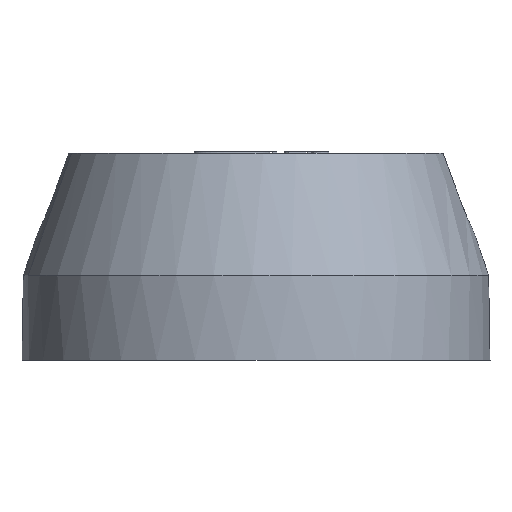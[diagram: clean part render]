
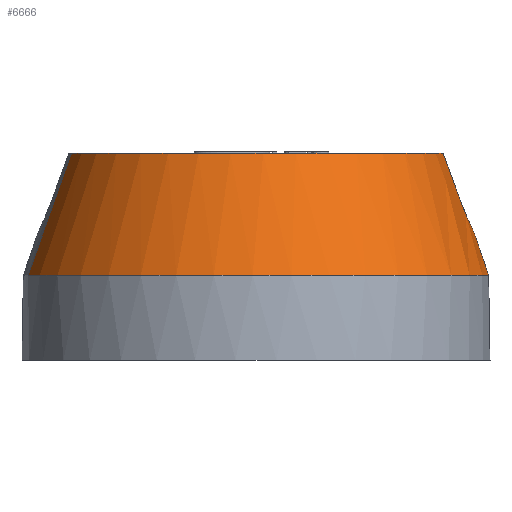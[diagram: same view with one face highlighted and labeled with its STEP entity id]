
A CAD part, left-side view. The second image highlights one B-rep face of the part: STEP entity #6666.
In plain terms, the highlighted free-form (B-spline) face has degree [1, 7] with [2, 8] control points.
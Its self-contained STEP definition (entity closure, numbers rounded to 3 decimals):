
#1211=CARTESIAN_POINT(' ',(0.,0.,25.197));
#1216=DIRECTION(' ',(0.,0.,1.));
#1221=DIRECTION(' ',(0.142,-0.99,0.));
#1226=AXIS2_PLACEMENT_3D(' ',#1211,#1216,#1221);
#1231=CIRCLE('',#1226,12.357);
#1236=CARTESIAN_POINT(' ',(1.75,-12.232,25.2));
#1237=VERTEX_POINT(' ',#1236);
#1241=CARTESIAN_POINT(' ',(2.675,-12.064,25.2));
#1242=VERTEX_POINT(' ',#1241);
#1246=EDGE_CURVE(' ',#1237,#1242,#1231,.T.);
#1426=CARTESIAN_POINT(' ',(-2.675,12.064,25.2));
#1427=VERTEX_POINT(' ',#1426);
#1441=CARTESIAN_POINT(' ',(0.,0.,25.2));
#1446=DIRECTION(' ',(0.,0.,1.));
#1451=DIRECTION(' ',(-0.216,0.976,0.));
#1456=AXIS2_PLACEMENT_3D(' ',#1441,#1446,#1451);
#1461=CIRCLE('',#1456,12.357);
#1466=CARTESIAN_POINT(' ',(-1.75,-12.232,25.2));
#1467=VERTEX_POINT(' ',#1466);
#1471=EDGE_CURVE(' ',#1427,#1467,#1461,.T.);
#6101=CARTESIAN_POINT(' ',(3.301,-14.892,17.242));
#6106=CARTESIAN_POINT(' ',(-3.382,-16.373,17.242));
#6111=CARTESIAN_POINT(' ',(-10.835,-14.353,17.242));
#6116=CARTESIAN_POINT(' ',(-16.902,-8.363,17.242));
#6121=CARTESIAN_POINT(' ',(-18.853,0.436,17.242));
#6126=CARTESIAN_POINT(' ',(-15.886,8.429,17.242));
#6131=CARTESIAN_POINT(' ',(-9.985,13.41,17.242));
#6136=CARTESIAN_POINT(' ',(-3.301,14.892,17.242));
#6141=CARTESIAN_POINT(' ',(2.675,-12.064,25.2));
#6146=CARTESIAN_POINT(' ',(-2.74,-13.264,25.2));
#6151=CARTESIAN_POINT(' ',(-8.778,-11.628,25.2));
#6156=CARTESIAN_POINT(' ',(-13.692,-6.775,25.2));
#6161=CARTESIAN_POINT(' ',(-15.273,0.353,25.2));
#6166=CARTESIAN_POINT(' ',(-12.869,6.829,25.2));
#6171=CARTESIAN_POINT(' ',(-8.089,10.864,25.2));
#6176=CARTESIAN_POINT(' ',(-2.675,12.064,25.2));
#6181=B_SPLINE_SURFACE_WITH_KNOTS(' ',1,7,((#6101,#6106,#6111,#6116,#6121,#6126,#6131,#6136),(#6141,#6146,#6151,#6156,#6161,#6166,#6171,#6176)),.UNSPECIFIED.,.F.,.F.,.U.,(2,2),(8,8),(0.,1.),(0.,1.),.UNSPECIFIED.);
#6186=CARTESIAN_POINT(' ',(2.675,-12.064,25.2));
#6191=DIRECTION(' ',(0.074,-0.334,-0.94));
#6196=VECTOR(' ',#6191,1.);
#6201=LINE('',#6186,#6196);
#6206=CARTESIAN_POINT(' ',(3.301,-14.892,17.242));
#6207=VERTEX_POINT(' ',#6206);
#6211=EDGE_CURVE(' ',#1242,#6207,#6201,.T.);
#6216=ORIENTED_EDGE(' ',*,*,#6211,.F.);
#6221=ORIENTED_EDGE(' ',*,*,#1246,.F.);
#6226=CARTESIAN_POINT(' ',(1.75,-13.426,21.95));
#6231=DIRECTION(' ',(0.,0.345,0.939));
#6236=VECTOR(' ',#6231,1.);
#6241=LINE('',#6226,#6236);
#6246=CARTESIAN_POINT(' ',(1.75,-13.426,21.95));
#6247=VERTEX_POINT(' ',#6246);
#6251=EDGE_CURVE(' ',#6247,#1237,#6241,.T.);
#6256=ORIENTED_EDGE(' ',*,*,#6251,.F.);
#6261=CARTESIAN_POINT(' ',(-1.75,-13.426,21.95));
#6266=CARTESIAN_POINT(' ',(-1.75,-13.495,21.766));
#6271=CARTESIAN_POINT(' ',(-1.722,-13.565,21.584));
#6276=CARTESIAN_POINT(' ',(-1.611,-13.706,21.241));
#6281=CARTESIAN_POINT(' ',(-1.53,-13.775,21.078));
#6286=CARTESIAN_POINT(' ',(-1.319,-13.904,20.783));
#6291=CARTESIAN_POINT(' ',(-1.189,-13.965,20.651));
#6296=CARTESIAN_POINT(' ',(-0.777,-14.103,20.348));
#6301=CARTESIAN_POINT(' ',(-0.437,-14.165,20.224));
#6306=CARTESIAN_POINT(' ',(0.078,-14.18,20.191));
#6311=CARTESIAN_POINT(' ',(0.263,-14.171,20.209));
#6316=CARTESIAN_POINT(' ',(0.612,-14.127,20.299));
#6321=CARTESIAN_POINT(' ',(0.778,-14.092,20.37));
#6326=CARTESIAN_POINT(' ',(1.077,-14.005,20.557));
#6331=CARTESIAN_POINT(' ',(1.212,-13.951,20.674));
#6336=CARTESIAN_POINT(' ',(1.592,-13.755,21.116));
#6341=CARTESIAN_POINT(' ',(1.75,-13.58,21.532));
#6346=CARTESIAN_POINT(' ',(1.75,-13.426,21.95));
#6351=B_SPLINE_CURVE_WITH_KNOTS('',3,(#6261,#6266,#6271,#6276,#6281,#6286,#6291,#6296,#6301,#6306,#6311,#6316,#6321,#6326,#6331,#6336,#6341,#6346),.UNSPECIFIED.,.F.,.U.,(4,2,2,2,2,2,2,2,4),(0.,0.1,0.2,0.3,0.473,0.573,0.673,0.773,1.),.UNSPECIFIED.);
#6356=CARTESIAN_POINT(' ',(-1.75,-13.426,21.95));
#6357=VERTEX_POINT(' ',#6356);
#6361=EDGE_CURVE(' ',#6357,#6247,#6351,.T.);
#6366=ORIENTED_EDGE(' ',*,*,#6361,.F.);
#6371=CARTESIAN_POINT(' ',(-1.75,-12.232,25.2));
#6376=DIRECTION(' ',(0.,-0.345,-0.939));
#6381=VECTOR(' ',#6376,1.);
#6386=LINE('',#6371,#6381);
#6391=EDGE_CURVE(' ',#1467,#6357,#6386,.T.);
#6396=ORIENTED_EDGE(' ',*,*,#6391,.F.);
#6401=ORIENTED_EDGE(' ',*,*,#1471,.F.);
#6406=CARTESIAN_POINT(' ',(-3.301,14.892,17.242));
#6411=DIRECTION(' ',(0.074,-0.334,0.94));
#6416=VECTOR(' ',#6411,1.);
#6421=LINE('',#6406,#6416);
#6426=CARTESIAN_POINT(' ',(-3.301,14.892,17.242));
#6427=VERTEX_POINT(' ',#6426);
#6431=EDGE_CURVE(' ',#6427,#1427,#6421,.T.);
#6436=ORIENTED_EDGE(' ',*,*,#6431,.F.);
#6441=CARTESIAN_POINT(' ',(0.,0.,17.242));
#6446=DIRECTION(' ',(0.,0.,1.));
#6451=DIRECTION(' ',(-0.216,0.976,0.));
#6456=AXIS2_PLACEMENT_3D(' ',#6441,#6446,#6451);
#6461=CIRCLE('',#6456,15.253);
#6466=CARTESIAN_POINT(' ',(-1.217,-15.205,17.242));
#6467=VERTEX_POINT(' ',#6466);
#6471=EDGE_CURVE(' ',#6427,#6467,#6461,.T.);
#6476=ORIENTED_EDGE(' ',*,*,#6471,.T.);
#6481=CARTESIAN_POINT(' ',(-0.639,-14.626,18.927));
#6486=DIRECTION(' ',(-0.309,-0.309,-0.9));
#6491=VECTOR(' ',#6486,1.);
#6496=LINE('',#6481,#6491);
#6501=CARTESIAN_POINT(' ',(-0.639,-14.626,18.927));
#6502=VERTEX_POINT(' ',#6501);
#6506=EDGE_CURVE(' ',#6502,#6467,#6496,.T.);
#6511=ORIENTED_EDGE(' ',*,*,#6506,.F.);
#6516=CARTESIAN_POINT(' ',(0.634,-14.626,18.928));
#6521=CARTESIAN_POINT(' ',(0.553,-14.545,19.162));
#6526=CARTESIAN_POINT(' ',(0.451,-14.465,19.391));
#6531=CARTESIAN_POINT(' ',(0.167,-14.37,19.668));
#6536=CARTESIAN_POINT(' ',(0.005,-14.348,19.73));
#6541=CARTESIAN_POINT(' ',(-0.263,-14.394,19.599));
#6546=CARTESIAN_POINT(' ',(-0.356,-14.43,19.494));
#6551=CARTESIAN_POINT(' ',(-0.527,-14.523,19.224));
#6556=CARTESIAN_POINT(' ',(-0.589,-14.576,19.069));
#6561=CARTESIAN_POINT(' ',(-0.639,-14.626,18.927));
#6566=B_SPLINE_CURVE_WITH_KNOTS('',3,(#6516,#6521,#6526,#6531,#6536,#6541,#6546,#6551,#6556,#6561),.UNSPECIFIED.,.F.,.U.,(4,2,2,2,4),(0.,0.358,0.607,0.78,1.),.UNSPECIFIED.);
#6571=CARTESIAN_POINT(' ',(0.634,-14.626,18.928));
#6572=VERTEX_POINT(' ',#6571);
#6576=EDGE_CURVE(' ',#6572,#6502,#6566,.T.);
#6581=ORIENTED_EDGE(' ',*,*,#6576,.F.);
#6586=CARTESIAN_POINT(' ',(1.213,-15.205,17.242));
#6591=DIRECTION(' ',(-0.309,0.309,0.9));
#6596=VECTOR(' ',#6591,1.);
#6601=LINE('',#6586,#6596);
#6606=CARTESIAN_POINT(' ',(1.213,-15.205,17.242));
#6607=VERTEX_POINT(' ',#6606);
#6611=EDGE_CURVE(' ',#6607,#6572,#6601,.T.);
#6616=ORIENTED_EDGE(' ',*,*,#6611,.F.);
#6621=CARTESIAN_POINT(' ',(0.001,-0.007,17.241));
#6626=DIRECTION(' ',(0.,0.,1.));
#6631=DIRECTION(' ',(0.08,-0.997,0.));
#6636=AXIS2_PLACEMENT_3D(' ',#6621,#6626,#6631);
#6641=CIRCLE('',#6636,15.247);
#6646=EDGE_CURVE(' ',#6607,#6207,#6641,.T.);
#6651=ORIENTED_EDGE(' ',*,*,#6646,.T.);
#6656=EDGE_LOOP(' ',(#6216,#6221,#6256,#6366,#6396,#6401,#6436,#6476,#6511,#6581,#6616,#6651));
#6661=FACE_OUTER_BOUND(' ',#6656,.T.);
#6666=ADVANCED_FACE('',(#6661),#6181,.T.);
